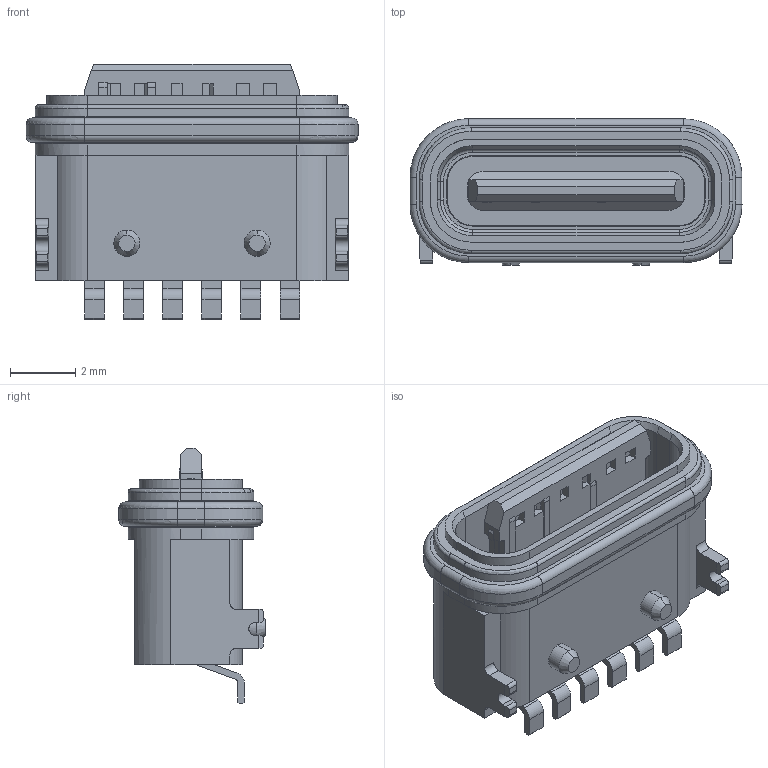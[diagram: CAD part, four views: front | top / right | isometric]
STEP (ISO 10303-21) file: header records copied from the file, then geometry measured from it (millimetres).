
FILE_DESCRIPTION (( 'STEP AP203' ), '1' );
FILE_NAME ('GT-USB-7049A.STEP', '2023-07-08T03:15:46', ( '' ), ( '' ), 'SwSTEP 2.0', 'SolidWorks 2023', '' );
FILE_SCHEMA (( 'CONFIG_CONTROL_DESIGN' ));
Length unit declared in the file: millimetre
Products named in the file (1): GT-USB-7049A
Bounding box: 10.2 x 4.49 x 7.85 mm (x, y, z)
Surface area: 479.5 mm2 (no closed solid volume)
Topology: 0 solids, 20 shells, 947 faces, 2479 edges, 1618 vertices
Faces by surface type: plane 702, cylinder 136, bspline 77, cone 16, torus 16
Entity records: 35112 total; most frequent: CARTESIAN_POINT 16965, ORIENTED_EDGE 4955, EDGE_CURVE 2479, B_SPLINE_CURVE_WITH_KNOTS 2479, DIRECTION 1742, VERTEX_POINT 1618, EDGE_LOOP 1006, FACE_OUTER_BOUND 947
